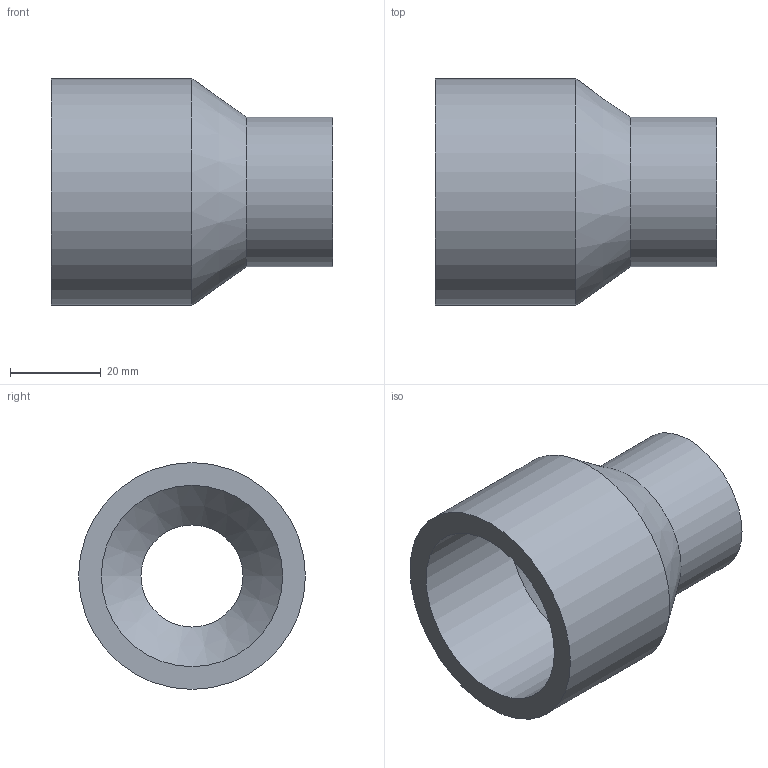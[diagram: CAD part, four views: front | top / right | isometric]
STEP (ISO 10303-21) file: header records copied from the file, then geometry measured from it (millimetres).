
FILE_DESCRIPTION(/* description */ ('PLASSON REDUCING SOCKET M.F.50(40)25 CEMENTED'),/* implementation_level */ '2;1');
FILE_NAME(/* name */ 'C:\Dropbox\KIMPROJECTS-Inventor\99-16-3568-Processing\PVC Catalog 2017\050200\050200050025.ipt.stp',/* time_stamp */ '2017-12-07T15:52:31+02:00',/* author */ ('KIM'),/* organization */ (''),/* preprocessor_version */ 'ST-DEVELOPER v15.6',/* originating_system */ 'Autodesk Inventor 2015',/* authorisation */ '');
FILE_SCHEMA (('AUTOMOTIVE_DESIGN { 1 0 10303 214 3 1 1 }'));
Length unit declared in the file: millimetre
Products named in the file (1): 050200050025
Bounding box: 62 x 50 x 50 mm (x, y, z)
Volume: 41411.9 mm3; surface area: 16478.6 mm2
Topology: 1 solids, 1 shells, 10 faces, 17 edges, 10 vertices
Faces by surface type: cylinder 5, plane 3, cone 2
Full cylindrical faces by diameter (mm): 22.5 x1, 25 x1, 33 x1, 40 x1, 50 x1
Entity records: 232 total; most frequent: DIRECTION 42, CARTESIAN_POINT 31, AXIS2_PLACEMENT_3D 21, EDGE_LOOP 20, ORIENTED_EDGE 20, FACE_BOUND 10, FACE_OUTER_BOUND 10, CIRCLE 10
